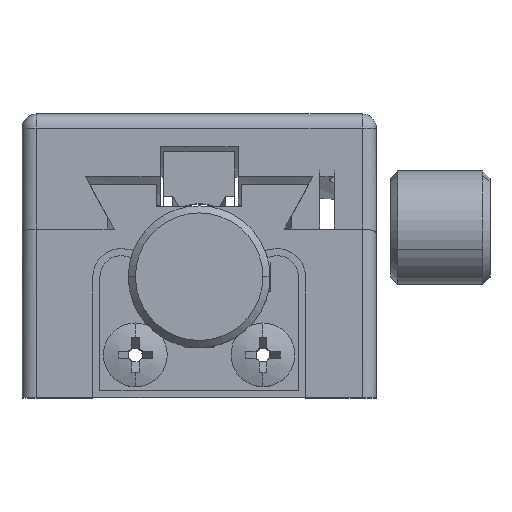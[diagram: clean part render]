
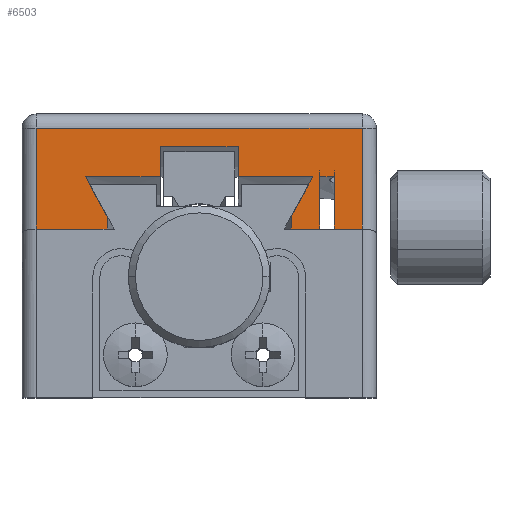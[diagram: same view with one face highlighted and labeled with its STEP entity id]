
A CAD part, top view. The second image highlights one B-rep face of the part: STEP entity #6503.
In plain terms, the highlighted planar face has unit normal (0, 0, 1).
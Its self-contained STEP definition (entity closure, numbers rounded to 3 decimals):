
#177 = EDGE_CURVE ( 'NONE', #12255, #5004, #20528, .T. ) ;
#289 = CARTESIAN_POINT ( 'NONE',  ( -6., 5.557, 12.5 ) ) ;
#513 = CARTESIAN_POINT ( 'NONE',  ( -2.75, 5.557, 12.5 ) ) ;
#597 = ORIENTED_EDGE ( 'NONE', *, *, #4161, .T. ) ;
#963 = CARTESIAN_POINT ( 'NONE',  ( 6.5, 2.787, 12.5 ) ) ;
#1047 = VERTEX_POINT ( 'NONE', #23212 ) ;
#1131 = PLANE ( 'NONE',  #8511 ) ;
#1578 = VECTOR ( 'NONE', #13573, 1000. ) ;
#1592 = DIRECTION ( 'NONE',  ( 1., 0., 0. ) ) ;
#1817 = VERTEX_POINT ( 'NONE', #3888 ) ;
#1997 = VERTEX_POINT ( 'NONE', #4680 ) ;
#2030 = VERTEX_POINT ( 'NONE', #20478 ) ;
#2101 = DIRECTION ( 'NONE',  ( 1., 0., 0. ) ) ;
#2279 = VECTOR ( 'NONE', #16431, 1000. ) ;
#2353 = VECTOR ( 'NONE', #4660, 1000. ) ;
#2556 = CARTESIAN_POINT ( 'NONE',  ( -11.5, 9., 12.5 ) ) ;
#2663 = VERTEX_POINT ( 'NONE', #2556 ) ;
#2876 = CARTESIAN_POINT ( 'NONE',  ( 6.5, 1.88, 12.5 ) ) ;
#3473 = ORIENTED_EDGE ( 'NONE', *, *, #15033, .F. ) ;
#3600 = CARTESIAN_POINT ( 'NONE',  ( 12.5, 1.88, 12.5 ) ) ;
#3888 = CARTESIAN_POINT ( 'NONE',  ( 11.5, 9., 12.5 ) ) ;
#3946 = CARTESIAN_POINT ( 'NONE',  ( 9.52, 10., 12.5 ) ) ;
#4041 = CARTESIAN_POINT ( 'NONE',  ( 9.52, 1.88, 12.5 ) ) ;
#4161 = EDGE_CURVE ( 'NONE', #2663, #8465, #7171, .T. ) ;
#4269 = DIRECTION ( 'NONE',  ( 0., 1., 0. ) ) ;
#4327 = DIRECTION ( 'NONE',  ( 0., 1., 0. ) ) ;
#4356 = VECTOR ( 'NONE', #8982, 1000. ) ;
#4390 = CARTESIAN_POINT ( 'NONE',  ( 12.5, 1.88, 12.5 ) ) ;
#4514 = LINE ( 'NONE', #9722, #18850 ) ;
#4531 = CARTESIAN_POINT ( 'NONE',  ( 12.5, 5.586, 12.5 ) ) ;
#4660 = DIRECTION ( 'NONE',  ( 0., -1., 0. ) ) ;
#4680 = CARTESIAN_POINT ( 'NONE',  ( 8.52, 1.88, 12.5 ) ) ;
#4770 = CARTESIAN_POINT ( 'NONE',  ( 12.5, 10., 12.5 ) ) ;
#5004 = VERTEX_POINT ( 'NONE', #22653 ) ;
#5588 = ORIENTED_EDGE ( 'NONE', *, *, #16565, .T. ) ;
#5678 = CARTESIAN_POINT ( 'NONE',  ( -2.75, 7.675, 12.5 ) ) ;
#5841 = DIRECTION ( 'NONE',  ( -1., 0., 0. ) ) ;
#5983 = ORIENTED_EDGE ( 'NONE', *, *, #10120, .F. ) ;
#6065 = CARTESIAN_POINT ( 'NONE',  ( 11.5, 10., 12.5 ) ) ;
#6256 = VECTOR ( 'NONE', #4327, 1000. ) ;
#6437 = VECTOR ( 'NONE', #12131, 1000. ) ;
#6484 = VERTEX_POINT ( 'NONE', #2876 ) ;
#6503 = ADVANCED_FACE ( 'NONE', ( #17383 ), #1131, .F. ) ;
#6582 = DIRECTION ( 'NONE',  ( -1., 0., 0. ) ) ;
#6755 = CARTESIAN_POINT ( 'NONE',  ( 8.021, 5.557, 12.5 ) ) ;
#6804 = EDGE_CURVE ( 'NONE', #1997, #6484, #13743, .T. ) ;
#6843 = EDGE_CURVE ( 'NONE', #8248, #16093, #17133, .T. ) ;
#7034 = ORIENTED_EDGE ( 'NONE', *, *, #12691, .F. ) ;
#7103 = LINE ( 'NONE', #7414, #2279 ) ;
#7171 = LINE ( 'NONE', #13620, #2353 ) ;
#7223 = VERTEX_POINT ( 'NONE', #22313 ) ;
#7377 = ORIENTED_EDGE ( 'NONE', *, *, #22456, .T. ) ;
#7414 = CARTESIAN_POINT ( 'NONE',  ( 2.75, 7.675, 12.5 ) ) ;
#7498 = VERTEX_POINT ( 'NONE', #17803 ) ;
#7514 = DIRECTION ( 'NONE',  ( 0., 1., 0. ) ) ;
#7945 = DIRECTION ( 'NONE',  ( -1., 0., 0. ) ) ;
#8248 = VERTEX_POINT ( 'NONE', #14748 ) ;
#8465 = VERTEX_POINT ( 'NONE', #21306 ) ;
#8511 = AXIS2_PLACEMENT_3D ( 'NONE', #4770, #17350, #6582 ) ;
#8538 = CARTESIAN_POINT ( 'NONE',  ( 12.5, 9., 12.5 ) ) ;
#8982 = DIRECTION ( 'NONE',  ( -1., 0., 0. ) ) ;
#9245 = CARTESIAN_POINT ( 'NONE',  ( 6.5, 10., 12.5 ) ) ;
#9376 = CARTESIAN_POINT ( 'NONE',  ( -7.515, 4.633, 12.5 ) ) ;
#9457 = CARTESIAN_POINT ( 'NONE',  ( -8.021, 5.557, 12.5 ) ) ;
#9722 = CARTESIAN_POINT ( 'NONE',  ( 2.75, 7.675, 12.5 ) ) ;
#10120 = EDGE_CURVE ( 'NONE', #1047, #8465, #18694, .T. ) ;
#10307 = VERTEX_POINT ( 'NONE', #513 ) ;
#10662 = ORIENTED_EDGE ( 'NONE', *, *, #14035, .T. ) ;
#11040 = DIRECTION ( 'NONE',  ( 0., 1., 0. ) ) ;
#11266 = CARTESIAN_POINT ( 'NONE',  ( 7.008, 3.71, 12.5 ) ) ;
#11419 = CARTESIAN_POINT ( 'NONE',  ( -6.5, 2.787, 12.5 ) ) ;
#11694 = CARTESIAN_POINT ( 'NONE',  ( 11.5, 1.88, 12.5 ) ) ;
#12131 = DIRECTION ( 'NONE',  ( -1., 0., 0. ) ) ;
#12153 = VECTOR ( 'NONE', #2101, 1000. ) ;
#12177 = EDGE_CURVE ( 'NONE', #18151, #17461, #12735, .T. ) ;
#12255 = VERTEX_POINT ( 'NONE', #11419 ) ;
#12337 = ORIENTED_EDGE ( 'NONE', *, *, #19893, .F. ) ;
#12378 = CARTESIAN_POINT ( 'NONE',  ( -6., 5.557, 12.5 ) ) ;
#12493 = DIRECTION ( 'NONE',  ( 0., 1., 0. ) ) ;
#12691 = EDGE_CURVE ( 'NONE', #7223, #17180, #7103, .T. ) ;
#12707 = CARTESIAN_POINT ( 'NONE',  ( -6.5, 10., 12.5 ) ) ;
#12722 = LINE ( 'NONE', #289, #12153 ) ;
#12735 = LINE ( 'NONE', #3946, #18614 ) ;
#12954 = LINE ( 'NONE', #12378, #13516 ) ;
#13006 = DIRECTION ( 'NONE',  ( 0., -1., 0. ) ) ;
#13090 = DIRECTION ( 'NONE',  ( 0., 1., 0. ) ) ;
#13231 = VECTOR ( 'NONE', #7945, 1000. ) ;
#13290 = ORIENTED_EDGE ( 'NONE', *, *, #16035, .T. ) ;
#13516 = VECTOR ( 'NONE', #1592, 1000. ) ;
#13573 = DIRECTION ( 'NONE',  ( 1., 0., 0. ) ) ;
#13620 = CARTESIAN_POINT ( 'NONE',  ( -11.5, 10., 12.5 ) ) ;
#13715 = ORIENTED_EDGE ( 'NONE', *, *, #6804, .F. ) ;
#13743 = LINE ( 'NONE', #16600, #17956 ) ;
#13746 = CARTESIAN_POINT ( 'NONE',  ( -2.75, 7.675, 12.5 ) ) ;
#13787 = CARTESIAN_POINT ( 'NONE',  ( -6.5, 2.787, 12.5 ) ) ;
#13812 = LINE ( 'NONE', #9245, #18575 ) ;
#14035 = EDGE_CURVE ( 'NONE', #5004, #10307, #12954, .T. ) ;
#14044 = LINE ( 'NONE', #12707, #19384 ) ;
#14403 = ORIENTED_EDGE ( 'NONE', *, *, #6843, .F. ) ;
#14498 = ORIENTED_EDGE ( 'NONE', *, *, #20460, .T. ) ;
#14748 = CARTESIAN_POINT ( 'NONE',  ( 6.5, 2.787, 12.5 ) ) ;
#15033 = EDGE_CURVE ( 'NONE', #2030, #7223, #4514, .T. ) ;
#15366 = CARTESIAN_POINT ( 'NONE',  ( 7.515, 4.633, 12.5 ) ) ;
#15462 = VECTOR ( 'NONE', #12493, 1000. ) ;
#15467 = VECTOR ( 'NONE', #7514, 1000. ) ;
#15902 = ORIENTED_EDGE ( 'NONE', *, *, #177, .T. ) ;
#16034 = LINE ( 'NONE', #5678, #15467 ) ;
#16035 = EDGE_CURVE ( 'NONE', #1997, #7498, #20230, .T. ) ;
#16065 = CARTESIAN_POINT ( 'NONE',  ( -7.008, 3.71, 12.5 ) ) ;
#16093 = VERTEX_POINT ( 'NONE', #6755 ) ;
#16431 = DIRECTION ( 'NONE',  ( -1., 0., 0. ) ) ;
#16565 = EDGE_CURVE ( 'NONE', #1047, #12255, #14044, .T. ) ;
#16600 = CARTESIAN_POINT ( 'NONE',  ( 12.5, 1.88, 12.5 ) ) ;
#17133 = B_SPLINE_CURVE_WITH_KNOTS ( 'NONE', 3,
 ( #963, #11266, #15366, #17163 ),
 .UNSPECIFIED., .F., .F.,
 ( 4, 4 ),
 ( 0.015, 0.018 ),
 .UNSPECIFIED. ) ;
#17163 = CARTESIAN_POINT ( 'NONE',  ( 8.021, 5.557, 12.5 ) ) ;
#17180 = VERTEX_POINT ( 'NONE', #13746 ) ;
#17350 = DIRECTION ( 'NONE',  ( 0., 0., -1. ) ) ;
#17383 = FACE_OUTER_BOUND ( 'NONE', #17839, .T. ) ;
#17461 = VERTEX_POINT ( 'NONE', #4041 ) ;
#17803 = CARTESIAN_POINT ( 'NONE',  ( 8.52, 5.586, 12.5 ) ) ;
#17812 = EDGE_CURVE ( 'NONE', #22437, #1817, #20595, .T. ) ;
#17820 = ORIENTED_EDGE ( 'NONE', *, *, #19099, .F. ) ;
#17839 = EDGE_LOOP ( 'NONE', ( #20738, #20317, #597, #5983, #5588, #15902, #10662, #14498, #7034, #3473, #23031, #14403, #17820, #13715, #13290, #7377, #22361, #12337 ) ) ;
#17956 = VECTOR ( 'NONE', #5841, 1000. ) ;
#18151 = VERTEX_POINT ( 'NONE', #19347 ) ;
#18387 = EDGE_CURVE ( 'NONE', #2030, #16093, #12722, .T. ) ;
#18553 = LINE ( 'NONE', #4390, #13231 ) ;
#18575 = VECTOR ( 'NONE', #11040, 1000. ) ;
#18614 = VECTOR ( 'NONE', #13006, 1000. ) ;
#18694 = LINE ( 'NONE', #3600, #4356 ) ;
#18850 = VECTOR ( 'NONE', #4269, 1000. ) ;
#19099 = EDGE_CURVE ( 'NONE', #6484, #8248, #13812, .T. ) ;
#19347 = CARTESIAN_POINT ( 'NONE',  ( 9.52, 5.586, 12.5 ) ) ;
#19384 = VECTOR ( 'NONE', #13090, 1000. ) ;
#19893 = EDGE_CURVE ( 'NONE', #22437, #17461, #18553, .T. ) ;
#20230 = LINE ( 'NONE', #23275, #15462 ) ;
#20317 = ORIENTED_EDGE ( 'NONE', *, *, #21898, .T. ) ;
#20460 = EDGE_CURVE ( 'NONE', #10307, #17180, #16034, .T. ) ;
#20478 = CARTESIAN_POINT ( 'NONE',  ( 2.75, 5.557, 12.5 ) ) ;
#20528 = B_SPLINE_CURVE_WITH_KNOTS ( 'NONE', 3,
 ( #13787, #16065, #9376, #9457 ),
 .UNSPECIFIED., .F., .F.,
 ( 4, 4 ),
 ( 0.015, 0.018 ),
 .UNSPECIFIED. ) ;
#20595 = LINE ( 'NONE', #6065, #6256 ) ;
#20726 = LINE ( 'NONE', #4531, #1578 ) ;
#20738 = ORIENTED_EDGE ( 'NONE', *, *, #17812, .T. ) ;
#20784 = LINE ( 'NONE', #8538, #6437 ) ;
#21306 = CARTESIAN_POINT ( 'NONE',  ( -11.5, 1.88, 12.5 ) ) ;
#21898 = EDGE_CURVE ( 'NONE', #1817, #2663, #20784, .T. ) ;
#22313 = CARTESIAN_POINT ( 'NONE',  ( 2.75, 7.675, 12.5 ) ) ;
#22361 = ORIENTED_EDGE ( 'NONE', *, *, #12177, .T. ) ;
#22437 = VERTEX_POINT ( 'NONE', #11694 ) ;
#22456 = EDGE_CURVE ( 'NONE', #7498, #18151, #20726, .T. ) ;
#22653 = CARTESIAN_POINT ( 'NONE',  ( -8.021, 5.557, 12.5 ) ) ;
#23031 = ORIENTED_EDGE ( 'NONE', *, *, #18387, .T. ) ;
#23212 = CARTESIAN_POINT ( 'NONE',  ( -6.5, 1.88, 12.5 ) ) ;
#23275 = CARTESIAN_POINT ( 'NONE',  ( 8.52, 10., 12.5 ) ) ;
